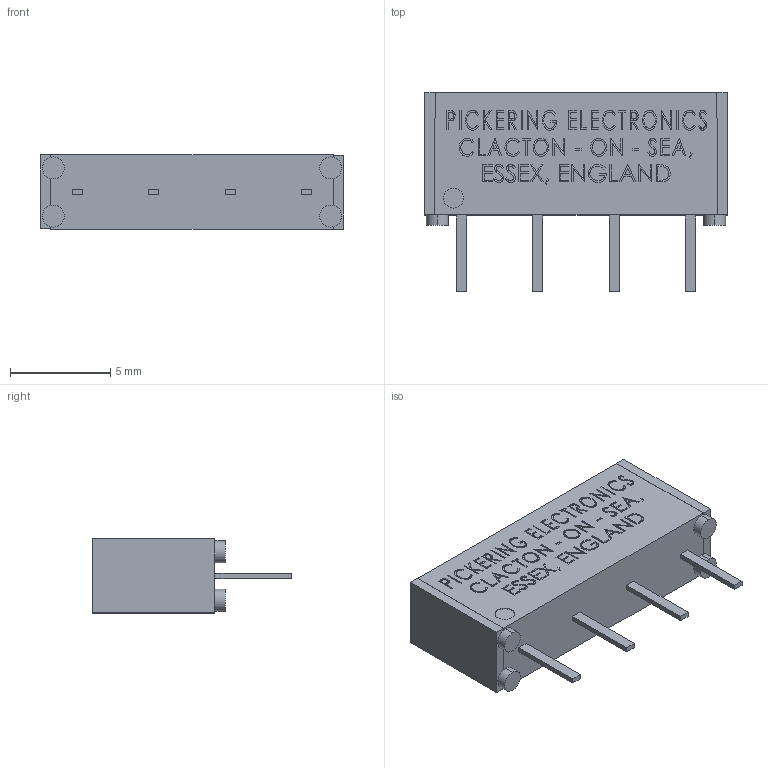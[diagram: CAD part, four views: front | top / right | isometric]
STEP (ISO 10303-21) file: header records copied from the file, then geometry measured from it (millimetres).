
FILE_DESCRIPTION (( 'STEP AP203' ), '1' );
FILE_NAME ('109-1-A-x-xx.STEP', '2010-06-29T10:52:52', ( ' ' ), ( '' ), 'SwSTEP 2.0', 'SolidWorks 2009', '' );
FILE_SCHEMA (( 'CONFIG_CONTROL_DESIGN' ));
Length unit declared in the file: millimetre
Products named in the file (1): 109-1-A-x-xx
Bounding box: 15.1 x 9.9 x 3.7 mm (x, y, z)
Volume: 340.6 mm3; surface area: 480.8 mm2
Topology: 7 solids, 7 shells, 1005 faces, 2643 edges, 1762 vertices
Faces by surface type: plane 712, bspline 283, cylinder 10
Entity records: 46136 total; most frequent: CARTESIAN_POINT 23126, ORIENTED_EDGE 5286, DIRECTION 3543, EDGE_CURVE 2643, VECTOR 2057, LINE 2057, VERTEX_POINT 1762, EDGE_LOOP 1115
